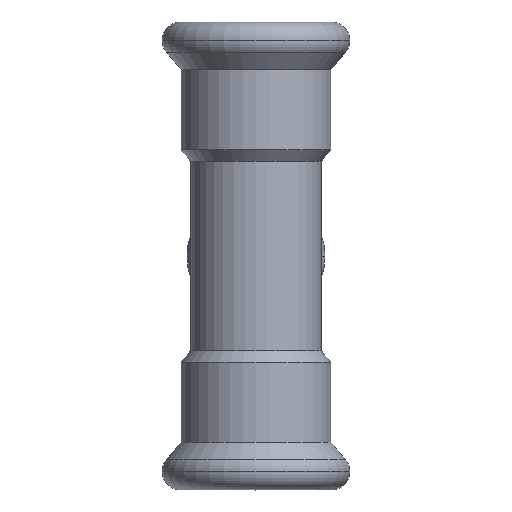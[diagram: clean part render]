
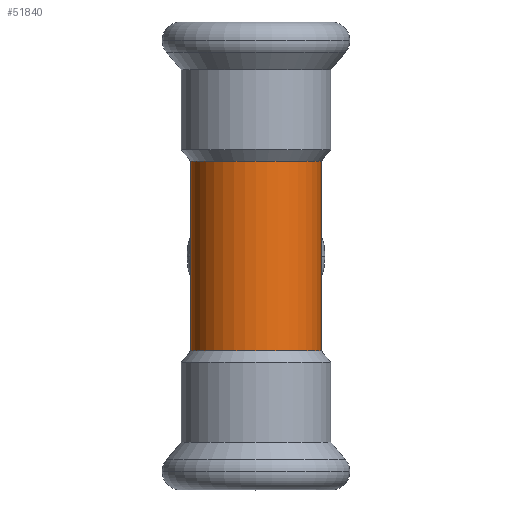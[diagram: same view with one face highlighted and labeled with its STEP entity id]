
A CAD part, top view. The second image highlights one B-rep face of the part: STEP entity #51840.
In plain terms, the highlighted cylindrical face has radius 11 mm (diameter 22 mm), a partial arc.
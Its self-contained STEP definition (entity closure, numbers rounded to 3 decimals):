
#160=CARTESIAN_POINT('',(-96.193,18.909,16.));
#170=DIRECTION('',(0.,0.,1.));
#180=DIRECTION('',(-1.,0.,0.));
#190=AXIS2_PLACEMENT_3D('',#160,#170,#180);
#200=CYLINDRICAL_SURFACE('',#190,11.);
#19090=CARTESIAN_POINT('',(-85.193,18.909,16.));
#19100=DIRECTION('',(0.,0.,1.));
#19110=VECTOR('',#19100,1.);
#19120=LINE('',#19090,#19110);
#19130=CARTESIAN_POINT('',(-85.193,18.909,-16.));
#19140=VERTEX_POINT('',#19130);
#19150=CARTESIAN_POINT('',(-85.193,18.909,16.));
#19160=VERTEX_POINT('',#19150);
#19170=EDGE_CURVE('',#19140,#19160,#19120,.T.);
#19190=CARTESIAN_POINT('',(-96.193,18.909,16.));
#19200=DIRECTION('',(0.,0.,1.));
#19210=DIRECTION('',(1.,0.,0.));
#19220=AXIS2_PLACEMENT_3D('',#19190,#19200,#19210);
#19230=CIRCLE('',#19220,11.);
#19240=CARTESIAN_POINT('',(-107.193,18.909,16.));
#19250=VERTEX_POINT('',#19240);
#19280=CARTESIAN_POINT('',(-107.193,18.909,16.));
#19290=DIRECTION('',(0.,0.,1.));
#19300=VECTOR('',#19290,1.);
#19310=LINE('',#19280,#19300);
#19320=CARTESIAN_POINT('',(-107.193,18.909,-16.));
#19330=VERTEX_POINT('',#19320);
#19340=EDGE_CURVE('',#19330,#19250,#19310,.T.);
#19360=CARTESIAN_POINT('',(-96.193,18.909,-16.));
#19370=DIRECTION('',(0.,0.,1.));
#19380=DIRECTION('',(-1.,0.,0.));
#19390=AXIS2_PLACEMENT_3D('',#19360,#19370,#19380);
#19400=CIRCLE('',#19390,11.);
#51340=EDGE_CURVE('',#19250,#19160,#19230,.T.);
#51770=ORIENTED_EDGE('',*,*,#51340,.F.);
#51780=ORIENTED_EDGE('',*,*,#19170,.T.);
#51790=EDGE_CURVE('',#19330,#19140,#19400,.T.);
#51800=ORIENTED_EDGE('',*,*,#51790,.T.);
#51810=ORIENTED_EDGE('',*,*,#19340,.F.);
#51820=EDGE_LOOP('',(#51810,#51800,#51780,#51770));
#51830=FACE_OUTER_BOUND('',#51820,.T.);
#51840=ADVANCED_FACE('',(#51830),#200,.T.);
